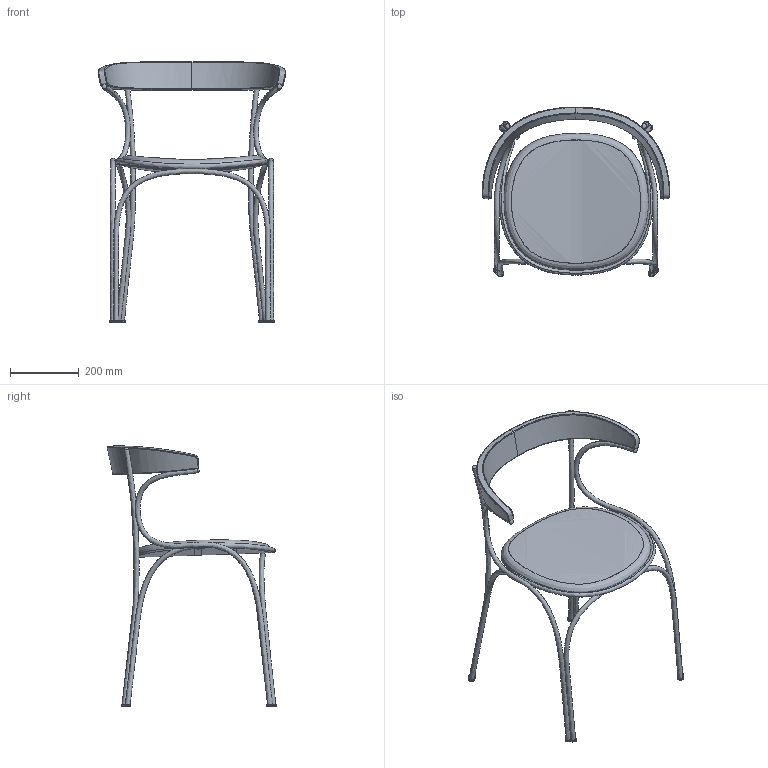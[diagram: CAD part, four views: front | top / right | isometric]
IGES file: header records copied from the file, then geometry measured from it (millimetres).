
Global section: file name: D:\Utente\Downloads\3D gtv 2023\ample.igs; native system: Rhinoceros ( Aug 11 2021 ); preprocessor: Trout Lake IGES 012 Aug 11 2021; date: 230413.080513; units: millimetre
Bounding box: 547.73 x 494.34 x 759.6 mm (x, y, z)
Surface area: 793735.5 mm2 (no closed solid volume)
Topology: 0 solids, 0 shells, 167 faces, 3774 edges, 3726 vertices
Faces by surface type: bspline 167
